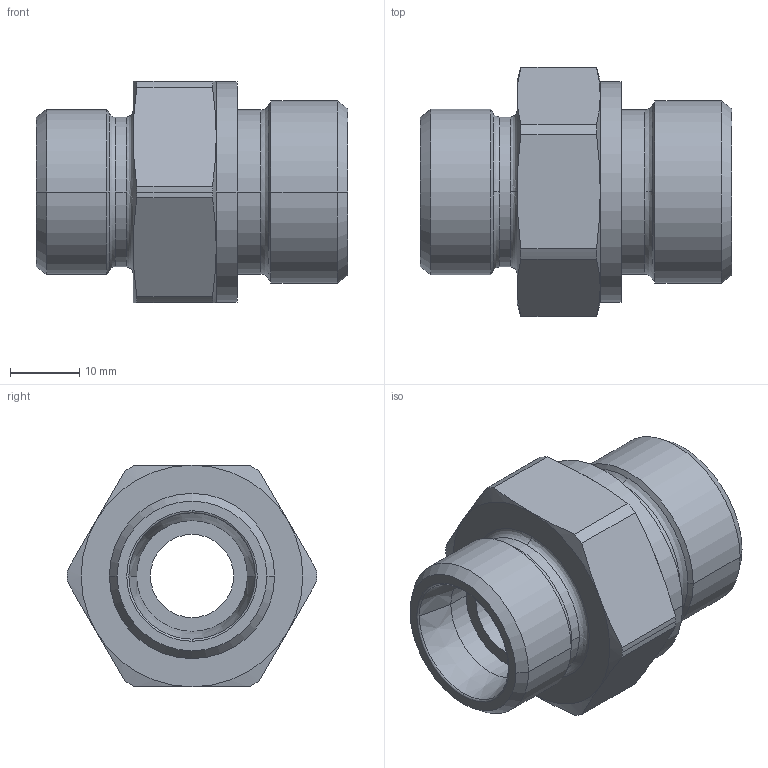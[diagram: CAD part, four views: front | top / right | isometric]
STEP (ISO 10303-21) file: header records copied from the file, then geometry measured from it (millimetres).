
FILE_DESCRIPTION((''),'2;1');
FILE_NAME('100545.stp','2007-10-30T14:23:30',(''),(''),'AutoCAD STEP 2000i','AutoCAD 2000i',', , ');
FILE_SCHEMA(('CONFIG_CONTROL_DESIGN'));
Length unit declared in the file: millimetre
Products named in the file (2): 100545.0; CHIAVE SMUSSATA#0
Assembly tree (1 placements, depth 2):
  100545.0
    CHIAVE SMUSSATA#0
Bounding box: 45 x 36 x 32 mm (x, y, z)
Volume: 20643 mm3; surface area: 7446.4 mm2
Topology: 1 solids, 1 shells, 75 faces, 185 edges, 117 vertices
Faces by surface type: cylinder 24, cone 24, plane 13, bspline 12, torus 2
Entity records: 2835 total; most frequent: CARTESIAN_POINT 955, DIRECTION 410, ORIENTED_EDGE 370, EDGE_CURVE 185, AXIS2_PLACEMENT_3D 184, CIRCLE 119, VERTEX_POINT 117, EDGE_LOOP 82
